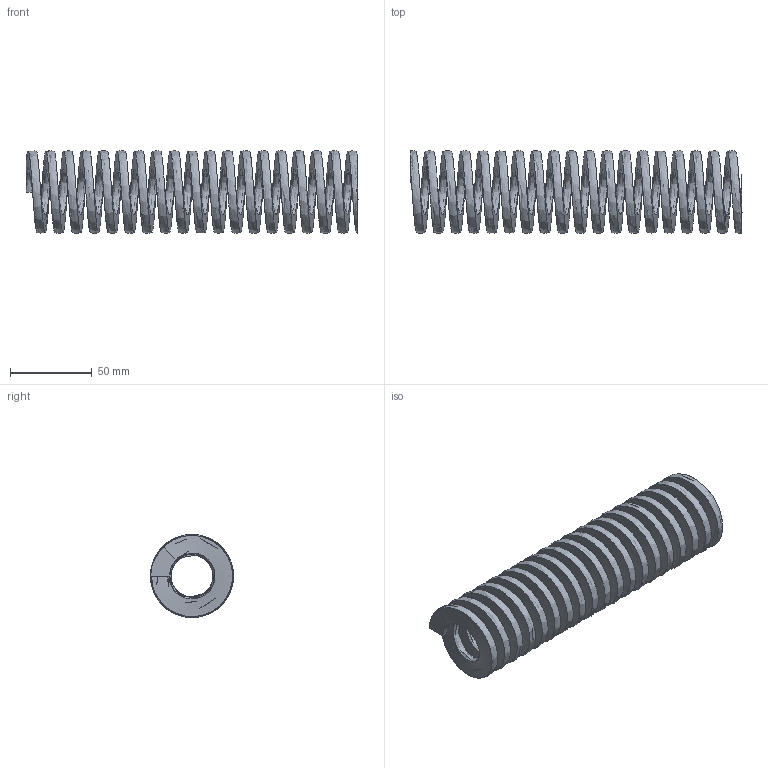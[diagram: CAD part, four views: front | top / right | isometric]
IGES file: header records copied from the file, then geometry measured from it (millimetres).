
Start section: SolidWorks IGES file using analytic representation for surfaces
Global section: file name: C:\Users\365admin\AppData\Local\Temp\InFlowXlateWorking\MS200L8.igs; native system: SolidWorks 2018; preprocessor: SolidWorks 2018; author: 365admin; date: 200824.080846; units: inch
Bounding box: 203.2 x 50.8 x 50.79 mm (x, y, z)
Surface area: 73181.1 mm2 (no closed solid volume)
Topology: 0 solids, 0 shells, 7 faces, 110 edges, 110 vertices
Faces by surface type: bspline 7
